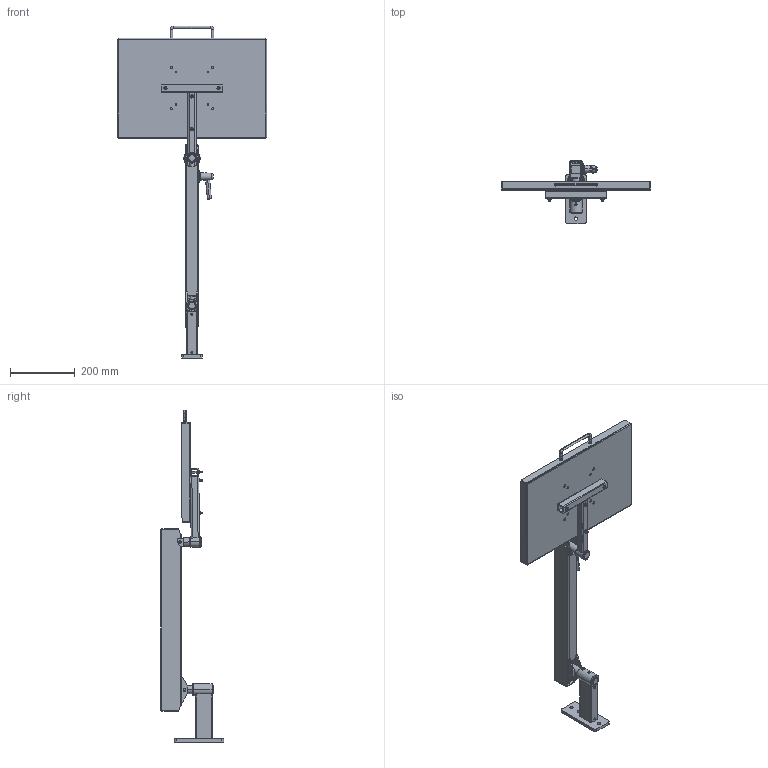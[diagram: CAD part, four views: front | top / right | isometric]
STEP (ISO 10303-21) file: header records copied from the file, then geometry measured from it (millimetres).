
FILE_DESCRIPTION (( 'STEP AP203' ), '1' );
FILE_NAME ('70-0726-00 REV AA, 18in FLEX SYSTEM, TOOL TRAY, WALL MOUNT W EXT - EXTENDED FLAT.STEP', '2025-09-16T23:20:58', ( '' ), ( '' ), 'SwSTEP 2.0', 'SolidWorks 2025', '' );
FILE_SCHEMA (( 'CONFIG_CONTROL_DESIGN' ));
Length unit declared in the file: inch
Products named in the file (52): 71-0038-RX REV AA, PIVOT, KNUCKLE, ELECTROLESS NICKEL; 71-2113-RX REV AA, HOUSING, BEARING, TALL, 1.5OD_MACHINE; 006-004-00_006-004-00; 11-0401-00 REV AA, 18x12 TOOL TRAY, BLACK; 002-100-00, BHSCS, 8-32x.375_002-100-00; 11-020-RX REV AA, PIN, KNURLED, 1.0LG x .25OD; 70-1826-00 REV AA, FLEX SECTION, 18in, 3-26 LB; 71-0030-RX REV AA, KNUCKLE, LOAD_MACHINE; 016-007-00, OILITE PLUS BEARING, 0.876 id x 1.002 od x 0.75 lg; 025-067-00, HANDLE, U SHAPED, 8-32; 71-0013-RX REV AA, HOUSING, BEARING, SHORT_MACHINE; 006-008-00, NUT, HEX, 10-32 x .125_006-008-00; 70-0050-00 REV AA, T BAR; 71-0217-RX REV AA, PLATE, NARROW WALL MOUNT_Laser; 016-008-00, OILITE PLUS BEARING, 0.876 id x 1.002 od x 1.25 lg; 002-091-00, FHSCS, 10-32x1.5, BO_002-091-00; 11-0027-RX REV AA, PLASTIC DISC, BRAKE ASSEMBLY_MACHINE; 70-0095-00 REV AA, STUD MOUNT, 6in EXT; 71-1800-RX REV AA, HOUSING, 18in FLEX; 71-0972-99 REV AA, END CAP, FLEX; 71-0070-RX REV AA, AXLE PIN, SHORT; 71-0071-RX REV AA, AXLE PIN, LONG; 013-314-00, SPRING, GOLD, 1x12; 70-0401-00 REV AA, 18x12 SUPPORT TRAY ASSEMBLY; 010-012-00, RETAINING RING, EXTERNAL, .875in SHAFT; 71-3033-99 REV AA, BOLT, ADJUSTING, 15.250; 005-084-00, BOLT, 1''4-20x2.75; 71-2032-RX REV AA, SPRING ROD, 18in FLEX; 11-0450-00 REV AA, FOAM, YELLOW, 18x12; 007-036-00, SHSS, 1''4-28, .25L_007-036-00; 011-033-00; 71-0029-RX REV AA, TAB, LOAD; 71-0091-RX REV AA, HOUSING, WALL MOUNT, 6in EXTENSION; 11-0601-99 REV AA, CONICAL KNOB, BRAKE ASSEMBLY; 71-1801-BLKX REV AA, FLEX HOUSING, 18in, BLACK; 70-0726-00 REV AA, 18in FLEX SYSTEM, TOOL TRAY, WALL MOUNT W EXT - EXTENDED FLAT; 016-070-00, BEARING, PLASTIC, .5ID x .625 OD x .75; 010-011-00, RETAINING RING, EXT, .250 SHAFT_010-011-00; 002-041-00_002-041-00; 007-031-00_007-031-00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
Assembly tree (80 placements, depth 4):
  70-0726-00 REV AA, 18in FLEX SYSTEM, TOOL TRAY, WALL MOUNT W EXT - EXTENDED FLAT
    70-0095-00 REV AA, STUD MOUNT, 6in EXT
      71-0217-RX REV AA, PLATE, NARROW WALL MOUNT_Laser
      71-0091-RX REV AA, HOUSING, WALL MOUNT, 6in EXTENSION
      71-2113-RX REV AA, HOUSING, BEARING, TALL, 1.5OD_MACHINE
      016-007-00, OILITE PLUS BEARING, 0.876 id x 1.002 od x 0.75 lg
      016-008-00, OILITE PLUS BEARING, 0.876 id x 1.002 od x 1.25 lg
      007-036-00, SHSS, 1''4-28, .25L_007-036-00
    70-0401-00 REV AA, 18x12 SUPPORT TRAY ASSEMBLY
      11-0401-00 REV AA, 18x12 TOOL TRAY, BLACK
      70-0050-00 REV AA, T BAR
        71-0047-RX REV AA, HOUSING, T AND STRAIGHT BAR_MACHINE
        71-0013-RX REV AA, HOUSING, BEARING, SHORT_MACHINE
        71-0052-RX REV AA, HOUSING, T AND STRAIGHT BAR CROSS SECTION_MACHINE
        016-008-00, OILITE PLUS BEARING, 0.876 id x 1.002 od x 1.25 lg
        007-031-00_007-031-00
      002-091-00, FHSCS, 10-32x1.5, BO_002-091-00  x4
      006-008-00, NUT, HEX, 10-32 x .125_006-008-00  x4
      025-067-00, HANDLE, U SHAPED, 8-32
      002-100-00, BHSCS, 8-32x.375_002-100-00  x2
      11-0450-00 REV AA, FOAM, YELLOW, 18x12
    70-1826-00 REV AA, FLEX SECTION, 18in, 3-26 LB
      71-0031-RX REV AA, KNUCKLE, MOUNT_MACHINE
      71-2032-RX REV AA, SPRING ROD, 18in FLEX
      71-0030-RX REV AA, KNUCKLE, LOAD_MACHINE
      71-0038-RX REV AA, PIVOT, KNUCKLE, ELECTROLESS NICKEL
      71-3033-99 REV AA, BOLT, ADJUSTING, 15.250
      71-0040-RX REV AA, BRAKE BLOCK, WIDE_MACHINE
      11-0027-RX REV AA, PLASTIC DISC, BRAKE ASSEMBLY_MACHINE
      71-1051-RX REV AA, SPRING BLOCK
      71-0037-RX REV AA, PIVOT, THREADED
      71-0972-99 REV AA, END CAP, FLEX  x2
      11-0650-00 REV AA, BRAKE HANDLE ASSEMBLY
        11-0601-99 REV AA, CONICAL KNOB, BRAKE ASSEMBLY
        11-0602-RX REV AA, HANDLE, BRAKE ASSEMBLY
        11-0027-RX REV AA, PLASTIC DISC, BRAKE ASSEMBLY_MACHINE
        005-084-00, BOLT, 1''4-20x2.75
      71-0071-RX REV AA, AXLE PIN, LONG
      71-1801-BLKX REV AA, FLEX HOUSING, 18in, BLACK
        71-1800-RX REV AA, HOUSING, 18in FLEX
        71-0029-RX REV AA, TAB, LOAD  x2
        71-0028-RX REV AA, TAB, MOUNT_MACHINE  x2
      71-0070-RX REV AA, AXLE PIN, SHORT
      010-011-00, RETAINING RING, EXT, .250 SHAFT_010-011-00  x4
      002-041-00_002-041-00  x2
      010-012-00, RETAINING RING, EXTERNAL, .875in SHAFT  x2
      11-020-RX REV AA, PIN, KNURLED, 1.0LG x .25OD  x2
      011-033-00
      004-144-00  x3
      013-314-00, SPRING, GOLD, 1x12
      016-070-00, BEARING, PLASTIC, .5ID x .625 OD x .75  x2
      006-059-00
      006-004-00_006-004-00  x2
      004-050-00, WASHER, FIBER, .032 THK, .265ID  x8
Bounding box: 461.77 x 195.71 x 1028.01 mm (x, y, z)
Volume: 1747765.3 mm3; surface area: 1212877.7 mm2
Topology: 76 solids, 76 shells, 2043 faces, 4964 edges, 3065 vertices
Faces by surface type: cylinder 908, plane 561, cone 423, torus 89, bspline 52, sphere 10
Entity records: 82381 total; most frequent: CARTESIAN_POINT 46773, ORIENTED_EDGE 6160, DIRECTION 6084, EDGE_CURVE 3080, AXIS2_PLACEMENT_3D 2355, VERTEX_POINT 1911, EDGE_LOOP 1415, LINE 1374
